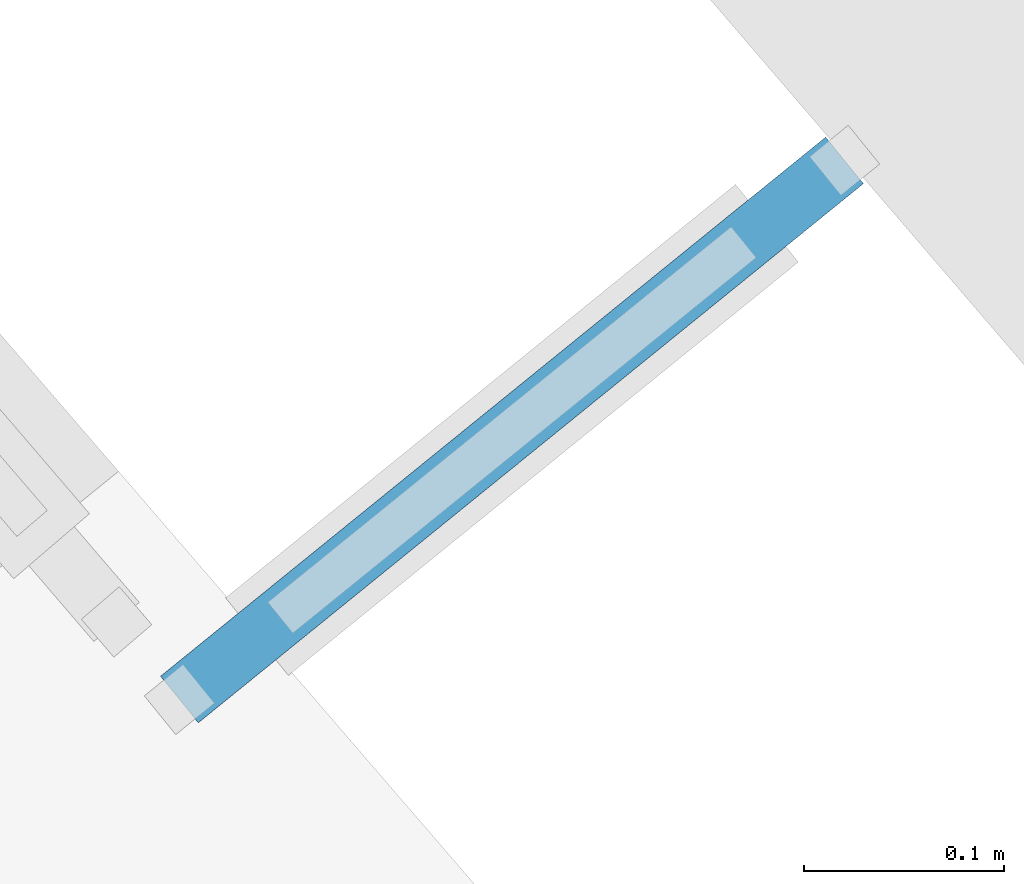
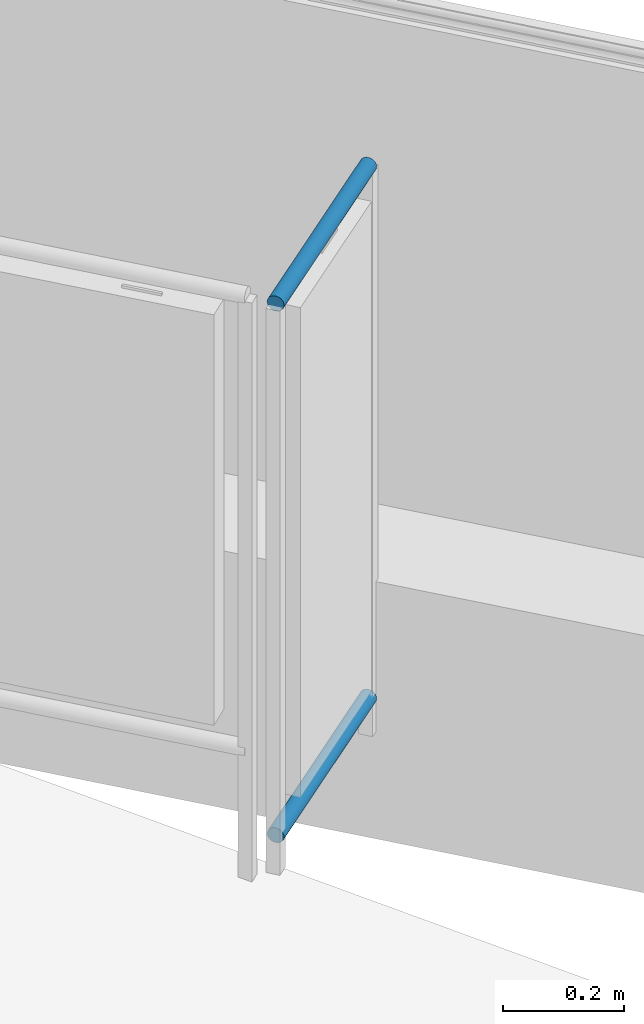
# One storey, part 57 of 67: 2 building element parts, 1 element without a shape of its own.
"""IFC4 building model written with IfcOpenShell, lengths in metres."""

from ifc_helpers import new_model, entity, si_unit, converted_unit, derived_unit, direction, frame, origin_with_axes, place, context, subcontext, project, spatial, polygons, material, type_object, element, aggregate, save


model = new_model("IFC4")

# Units and contexts
model_context = context("Model", 3, precision=1e-05, world=origin_with_axes(), true_north=direction((0.0, 1.0)))
body_context = subcontext(model_context, "Body", "Model", "MODEL_VIEW")
ifc_project = project(units=[si_unit("LENGTHUNIT", "METRE"), si_unit("AREAUNIT", "SQUARE_METRE"), si_unit("VOLUMEUNIT", "CUBIC_METRE"), converted_unit("PLANEANGLEUNIT", "DEGREE", entity("IfcPlaneAngleMeasure", 0.0174532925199), si_unit("PLANEANGLEUNIT", "RADIAN"), dimensions=[0, 0, 0, 0, 0, 0, 0]), converted_unit("TIMEUNIT", "Year", entity("IfcTimeMeasure", 31556926.0), si_unit("TIMEUNIT", "SECOND"), dimensions=[0, 0, 1, 0, 0, 0, 0]), si_unit("MASSUNIT", "GRAM", prefix="KILO"), si_unit("THERMODYNAMICTEMPERATUREUNIT", "DEGREE_CELSIUS"), si_unit("LUMINOUSINTENSITYUNIT", "LUMEN"), si_unit("ENERGYUNIT", "JOULE", prefix="MEGA"), derived_unit("THERMALCONDUCTANCEUNIT", [(si_unit("POWERUNIT", "WATT"), 1), (si_unit("LENGTHUNIT", "METRE"), -1), (si_unit("THERMODYNAMICTEMPERATUREUNIT", "KELVIN"), -1)]), derived_unit("SPECIFICHEATCAPACITYUNIT", [(si_unit("ENERGYUNIT", "JOULE"), 1), (si_unit("MASSUNIT", "GRAM", prefix="KILO"), -1), (si_unit("THERMODYNAMICTEMPERATUREUNIT", "KELVIN"), -1)]), derived_unit("MASSDENSITYUNIT", [(si_unit("MASSUNIT", "GRAM", prefix="KILO"), 1), (si_unit("VOLUMEUNIT", "CUBIC_METRE"), -1)])], contexts=[model_context])

# Site, building, storey
site_placement = place(None, frame((-0.00153261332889, -0.00661245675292, 0.0), z_axis=(0.0, 0.0, 1.0), x_axis=(1.0, 0.0, 0.0)))
site = spatial("IfcSite", under=ifc_project, at=site_placement, Name="Site", CompositionType="ELEMENT")
building_placement = place(site_placement, origin_with_axes())
building = spatial("IfcBuilding", under=site, at=building_placement, Name="Building", CompositionType="ELEMENT")
storey_placement = place(building_placement, frame((0.0, 0.0, -0.22), z_axis=(0.0, 0.0, 1.0), x_axis=(1.0, 0.0, 0.0)))
storey = spatial("IfcBuildingStorey", under=building, at=storey_placement, Name="EG", CompositionType="ELEMENT", Elevation=-0.22)

# Railing, building element parts
railing_type = type_object("IfcRailingType", Name="Geländerart", PredefinedType="NOTDEFINED")
railing_placement = place(storey_placement, frame((18.629242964, 20.5689313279, 0.215679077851), z_axis=(0.0, 0.0, 1.0), x_axis=(1.0, 0.0, 0.0)))
railing = element("IfcRailing", 1, at=railing_placement, inside=storey, type_object=railing_type, Name="Geländer - 001", PredefinedType="NOTDEFINED")
ifc_material = material(Name="Aluminium")
building_element_part_1_placement = place(railing_placement, origin_with_axes())
building_element_part_1 = element("IfcBuildingElementPart", 2, at=building_element_part_1_placement, material=ifc_material, Name="Aluminium", PredefinedType="NOTDEFINED", context=body_context, shape_type="Tessellation", body=[
    polygons([(0.0220384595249, -0.0271901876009, 1.145), (0.0221819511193, -0.0273672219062, 1.14760472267), (0.355302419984, 0.242636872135, 1.14760472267), (0.35515892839, 0.24281390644, 1.145), (0.0221819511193, -0.0273672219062, 1.14239527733), (0.0226080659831, -0.0278929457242, 1.13986969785), (0.0233038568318, -0.0287513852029, 1.1375), (0.0242481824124, -0.0299164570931, 1.13535818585), (0.0254123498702, -0.0313527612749, 1.13350933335), (0.0267609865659, -0.0330166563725, 1.13200961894), (0.0282531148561, -0.0348575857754, 1.13090461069), (0.0298433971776, -0.0368196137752, 1.1302278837), (0.031483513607, -0.0388431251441, 1.13), (0.0331236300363, -0.0408666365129, 1.1302278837), (0.0347139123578, -0.0428286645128, 1.13090461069), (0.036206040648, -0.0446695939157, 1.13200961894), (0.0375546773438, -0.0463334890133, 1.13350933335), (0.0387188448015, -0.0477697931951, 1.13535818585), (0.0396631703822, -0.0489348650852, 1.1375), (0.0403589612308, -0.0497933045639, 1.13986969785), (0.0407850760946, -0.050319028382, 1.14239527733), (0.0409285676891, -0.0504960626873, 1.145), (0.0407850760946, -0.050319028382, 1.14760472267), (0.0403589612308, -0.0497933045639, 1.15013030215), (0.0396631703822, -0.0489348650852, 1.1525), (0.0387188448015, -0.0477697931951, 1.15464181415), (0.0375546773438, -0.0463334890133, 1.15649066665), (0.036206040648, -0.0446695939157, 1.15799038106), (0.0347139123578, -0.0428286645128, 1.15909538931), (0.0331236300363, -0.0408666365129, 1.1597721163), (0.031483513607, -0.0388431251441, 1.16), (0.0298433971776, -0.0368196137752, 1.1597721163), (0.0282531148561, -0.0348575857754, 1.15909538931), (0.0267609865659, -0.0330166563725, 1.15799038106), (0.0254123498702, -0.0313527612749, 1.15649066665), (0.0242481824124, -0.0299164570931, 1.15464181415), (0.0233038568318, -0.0287513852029, 1.1525), (0.0226080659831, -0.0278929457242, 1.15013030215), (0.355728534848, 0.242111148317, 1.15013030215), (0.356424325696, 0.241252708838, 1.1525), (0.357368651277, 0.240087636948, 1.15464181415), (0.358532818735, 0.238651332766, 1.15649066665), (0.359881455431, 0.236987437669, 1.15799038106), (0.361373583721, 0.235146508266, 1.15909538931), (0.362963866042, 0.233184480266, 1.1597721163), (0.364603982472, 0.231160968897, 1.16), (0.366244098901, 0.229137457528, 1.1597721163), (0.367834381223, 0.227175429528, 1.15909538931), (0.369326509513, 0.225334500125, 1.15799038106), (0.370675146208, 0.223670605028, 1.15649066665), (0.371839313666, 0.222234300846, 1.15464181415), (0.372783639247, 0.221069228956, 1.1525), (0.373479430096, 0.220210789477, 1.15013030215), (0.373905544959, 0.219685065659, 1.14760472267), (0.374049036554, 0.219508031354, 1.145), (0.373905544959, 0.219685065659, 1.14239527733), (0.373479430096, 0.220210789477, 1.13986969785), (0.372783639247, 0.221069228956, 1.1375), (0.371839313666, 0.222234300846, 1.13535818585), (0.370675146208, 0.223670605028, 1.13350933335), (0.369326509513, 0.225334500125, 1.13200961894), (0.367834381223, 0.227175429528, 1.13090461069), (0.366244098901, 0.229137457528, 1.1302278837), (0.364603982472, 0.231160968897, 1.13), (0.362963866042, 0.233184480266, 1.1302278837), (0.361373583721, 0.235146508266, 1.13090461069), (0.359881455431, 0.236987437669, 1.13200961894), (0.358532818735, 0.238651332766, 1.13350933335), (0.357368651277, 0.240087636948, 1.13535818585), (0.356424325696, 0.241252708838, 1.1375), (0.355728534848, 0.242111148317, 1.13986969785), (0.355302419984, 0.242636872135, 1.14239527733)], [[[1, 2, 3, 4]], [[1, 5, 6, 7, 8, 9, 10, 11, 12, 13, 14, 15, 16, 17, 18, 19, 20, 21, 22, 23, 24, 25, 26, 27, 28, 29, 30, 31, 32, 33, 34, 35, 36, 37, 38, 2]], [[2, 38, 39, 3]], [[4, 3, 39, 40, 41, 42, 43, 44, 45, 46, 47, 48, 49, 50, 51, 52, 53, 54, 55, 56, 57, 58, 59, 60, 61, 62, 63, 64, 65, 66, 67, 68, 69, 70, 71, 72]], [[5, 1, 4, 72]], [[6, 5, 72, 71]], [[7, 6, 71, 70]], [[8, 7, 70, 69]], [[9, 8, 69, 68]], [[10, 9, 68, 67]], [[11, 10, 67, 66]], [[12, 11, 66, 65]], [[13, 12, 65, 64]], [[14, 13, 64, 63]], [[15, 14, 63, 62]], [[16, 15, 62, 61]], [[17, 16, 61, 60]], [[18, 17, 60, 59]], [[19, 18, 59, 58]], [[20, 19, 58, 57]], [[21, 20, 57, 56]], [[22, 21, 56, 55]], [[23, 22, 55, 54]], [[24, 23, 54, 53]], [[25, 24, 53, 52]], [[26, 25, 52, 51]], [[27, 26, 51, 50]], [[28, 27, 50, 49]], [[29, 28, 49, 48]], [[30, 29, 48, 47]], [[31, 30, 47, 46]], [[32, 31, 46, 45]], [[33, 32, 45, 44]], [[34, 33, 44, 43]], [[35, 34, 43, 42]], [[36, 35, 42, 41]], [[37, 36, 41, 40]], [[38, 37, 40, 39]]], closed=True),
])
building_element_part_2_placement = place(railing_placement, origin_with_axes())
building_element_part_2 = element("IfcBuildingElementPart", 3, at=building_element_part_2_placement, material=ifc_material, Name="Aluminium", PredefinedType="NOTDEFINED", context=body_context, shape_type="Tessellation", body=[
    polygons([(0.0220384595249, -0.0271901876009, 0.07), (0.0221819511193, -0.0273672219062, 0.072604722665), (0.355302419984, 0.242636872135, 0.072604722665), (0.35515892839, 0.24281390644, 0.07), (0.0221819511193, -0.0273672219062, 0.067395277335), (0.0226080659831, -0.0278929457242, 0.0648696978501), (0.0233038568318, -0.0287513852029, 0.0625), (0.0242481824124, -0.0299164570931, 0.0603581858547), (0.0254123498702, -0.0313527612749, 0.0585093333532), (0.0267609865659, -0.0330166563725, 0.0570096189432), (0.0282531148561, -0.0348575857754, 0.0559046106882), (0.0298433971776, -0.0368196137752, 0.0552278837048), (0.031483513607, -0.0388431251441, 0.055), (0.0331236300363, -0.0408666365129, 0.0552278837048), (0.0347139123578, -0.0428286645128, 0.0559046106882), (0.036206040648, -0.0446695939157, 0.0570096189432), (0.0375546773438, -0.0463334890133, 0.0585093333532), (0.0387188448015, -0.0477697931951, 0.0603581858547), (0.0396631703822, -0.0489348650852, 0.0625), (0.0403589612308, -0.0497933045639, 0.0648696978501), (0.0407850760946, -0.050319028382, 0.067395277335), (0.0409285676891, -0.0504960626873, 0.07), (0.0407850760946, -0.050319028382, 0.072604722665), (0.0403589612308, -0.0497933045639, 0.0751303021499), (0.0396631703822, -0.0489348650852, 0.0775), (0.0387188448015, -0.0477697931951, 0.0796418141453), (0.0375546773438, -0.0463334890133, 0.0814906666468), (0.036206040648, -0.0446695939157, 0.0829903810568), (0.0347139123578, -0.0428286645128, 0.0840953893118), (0.0331236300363, -0.0408666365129, 0.0847721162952), (0.031483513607, -0.0388431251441, 0.085), (0.0298433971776, -0.0368196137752, 0.0847721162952), (0.0282531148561, -0.0348575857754, 0.0840953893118), (0.0267609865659, -0.0330166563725, 0.0829903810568), (0.0254123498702, -0.0313527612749, 0.0814906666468), (0.0242481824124, -0.0299164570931, 0.0796418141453), (0.0233038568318, -0.0287513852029, 0.0775), (0.0226080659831, -0.0278929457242, 0.0751303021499), (0.355728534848, 0.242111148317, 0.0751303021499), (0.356424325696, 0.241252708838, 0.0775), (0.357368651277, 0.240087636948, 0.0796418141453), (0.358532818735, 0.238651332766, 0.0814906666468), (0.359881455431, 0.236987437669, 0.0829903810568), (0.361373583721, 0.235146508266, 0.0840953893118), (0.362963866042, 0.233184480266, 0.0847721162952), (0.364603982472, 0.231160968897, 0.085), (0.366244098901, 0.229137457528, 0.0847721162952), (0.367834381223, 0.227175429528, 0.0840953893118), (0.369326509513, 0.225334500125, 0.0829903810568), (0.370675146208, 0.223670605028, 0.0814906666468), (0.371839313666, 0.222234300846, 0.0796418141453), (0.372783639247, 0.221069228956, 0.0775), (0.373479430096, 0.220210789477, 0.0751303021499), (0.373905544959, 0.219685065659, 0.072604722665), (0.374049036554, 0.219508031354, 0.07), (0.373905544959, 0.219685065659, 0.067395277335), (0.373479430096, 0.220210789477, 0.0648696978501), (0.372783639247, 0.221069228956, 0.0625), (0.371839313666, 0.222234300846, 0.0603581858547), (0.370675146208, 0.223670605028, 0.0585093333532), (0.369326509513, 0.225334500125, 0.0570096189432), (0.367834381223, 0.227175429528, 0.0559046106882), (0.366244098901, 0.229137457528, 0.0552278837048), (0.364603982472, 0.231160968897, 0.055), (0.362963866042, 0.233184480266, 0.0552278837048), (0.361373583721, 0.235146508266, 0.0559046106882), (0.359881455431, 0.236987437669, 0.0570096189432), (0.358532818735, 0.238651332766, 0.0585093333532), (0.357368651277, 0.240087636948, 0.0603581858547), (0.356424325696, 0.241252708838, 0.0625), (0.355728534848, 0.242111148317, 0.0648696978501), (0.355302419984, 0.242636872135, 0.067395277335)], [[[1, 2, 3, 4]], [[1, 5, 6, 7, 8, 9, 10, 11, 12, 13, 14, 15, 16, 17, 18, 19, 20, 21, 22, 23, 24, 25, 26, 27, 28, 29, 30, 31, 32, 33, 34, 35, 36, 37, 38, 2]], [[2, 38, 39, 3]], [[4, 3, 39, 40, 41, 42, 43, 44, 45, 46, 47, 48, 49, 50, 51, 52, 53, 54, 55, 56, 57, 58, 59, 60, 61, 62, 63, 64, 65, 66, 67, 68, 69, 70, 71, 72]], [[5, 1, 4, 72]], [[6, 5, 72, 71]], [[7, 6, 71, 70]], [[8, 7, 70, 69]], [[9, 8, 69, 68]], [[10, 9, 68, 67]], [[11, 10, 67, 66]], [[12, 11, 66, 65]], [[13, 12, 65, 64]], [[14, 13, 64, 63]], [[15, 14, 63, 62]], [[16, 15, 62, 61]], [[17, 16, 61, 60]], [[18, 17, 60, 59]], [[19, 18, 59, 58]], [[20, 19, 58, 57]], [[21, 20, 57, 56]], [[22, 21, 56, 55]], [[23, 22, 55, 54]], [[24, 23, 54, 53]], [[25, 24, 53, 52]], [[26, 25, 52, 51]], [[27, 26, 51, 50]], [[28, 27, 50, 49]], [[29, 28, 49, 48]], [[30, 29, 48, 47]], [[31, 30, 47, 46]], [[32, 31, 46, 45]], [[33, 32, 45, 44]], [[34, 33, 44, 43]], [[35, 34, 43, 42]], [[36, 35, 42, 41]], [[37, 36, 41, 40]], [[38, 37, 40, 39]]], closed=True),
])
aggregate(railing, [building_element_part_1, building_element_part_2])

save(model, "model.ifc")
